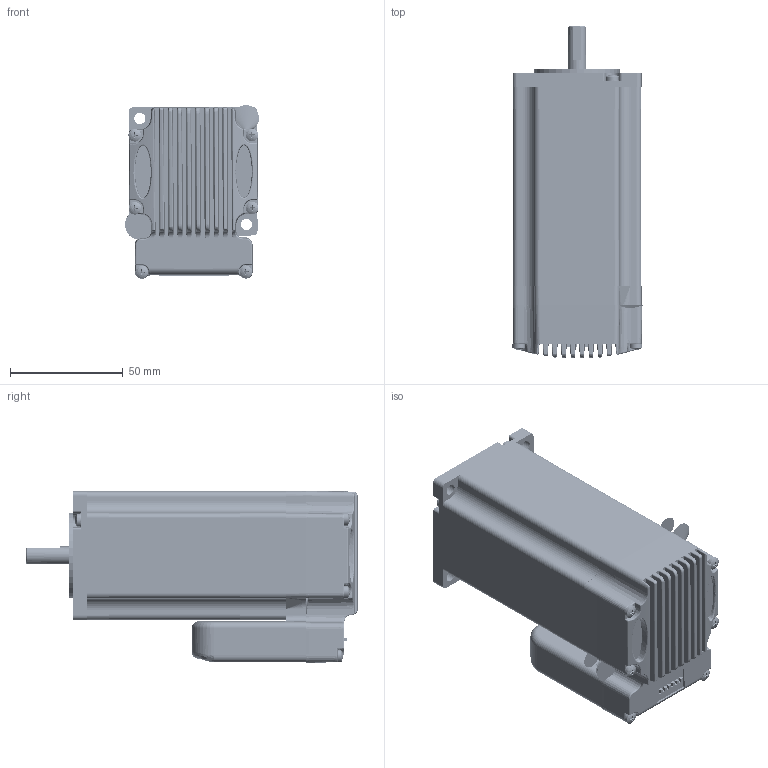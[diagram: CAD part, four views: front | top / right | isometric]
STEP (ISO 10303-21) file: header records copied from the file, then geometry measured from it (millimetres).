
FILE_DESCRIPTION((''),'2;1');
FILE_NAME('ASMISV57T_TY_ASM_ASM','2021-08-30T',('sunjun'),(''),'PRO/ENGINEER BY PARAMETRIC TECHNOLOGY CORPORATION, 2008090','PRO/ENGINEER BY PARAMETRIC TECHNOLOGY CORPORATION, 2008090','');
FILE_SCHEMA(('CONFIG_CONTROL_DESIGN'));
Products named in the file (29): CT_1; 960_1; 57AL_1; QG_1; FPCB_2; CONNECTOR_3_81MM6PIN_MALE_2; CONNECTOR_3_81MMCLOSED2PIN_MALE; 2_1; DPCB_1; BOMA_1; CPCB_2; LS22_2; LS10_2; LS2_5_2; ASM_PCB_ISV57T_ASM_7_ASM; ASMISV57T_TY_ASM_2_ASM; PRT0001; PRODUCT_14418; PRT0002; PRT0003; PRT0004; PRODUCT_22925; PRT0005; PRODUCT_18671; PRODUCT_9436; ____57ZWXB03-21_0803_ASM; _ISV5713V36C-S21V20; ISV5713V36C-S21V20_ASM; ASMISV57T_TY_ASM_ASM
Assembly tree (43 placements, depth 4):
  ASMISV57T_TY_ASM_ASM
    ASMISV57T_TY_ASM_2_ASM
      CT_1
      960_1
      57AL_1
      QG_1
      ASM_PCB_ISV57T_ASM_7_ASM
        FPCB_2
        CONNECTOR_3_81MM6PIN_MALE_2
        CONNECTOR_3_81MMCLOSED2PIN_MALE
        2_1
        DPCB_1
        BOMA_1
        CPCB_2
        LS22_2  x6
        LS10_2  x2
        LS2_5_2  x3
    ISV5713V36C-S21V20_ASM
      ____57ZWXB03-21_0803_ASM
        PRT0001  x4
        PRODUCT_14418
        PRT0002
        PRT0003  x4
        PRT0004
        PRODUCT_22925
        PRT0005  x2
        PRODUCT_18671
        PRODUCT_9436
      _ISV5713V36C-S21V20
Bounding box: 59.45 x 147.27 x 77.08 mm (x, y, z)
Volume: 171823.4 mm3; surface area: 162343.7 mm2
Topology: 37 solids, 38 shells, 3904 faces, 9930 edges, 6070 vertices
Faces by surface type: cone 1506, plane 1128, cylinder 765, sphere 240, torus 196, bspline 69
Full cylindrical faces by diameter (mm): 9.5 x2, 11.5 x2
Entity records: 91366 total; most frequent: CARTESIAN_POINT 26687, ORIENTED_EDGE 13712, DIRECTION 13440, EDGE_CURVE 6857, AXIS2_PLACEMENT_3D 5098, VERTEX_POINT 4408, VECTOR 3244, LINE 3244
